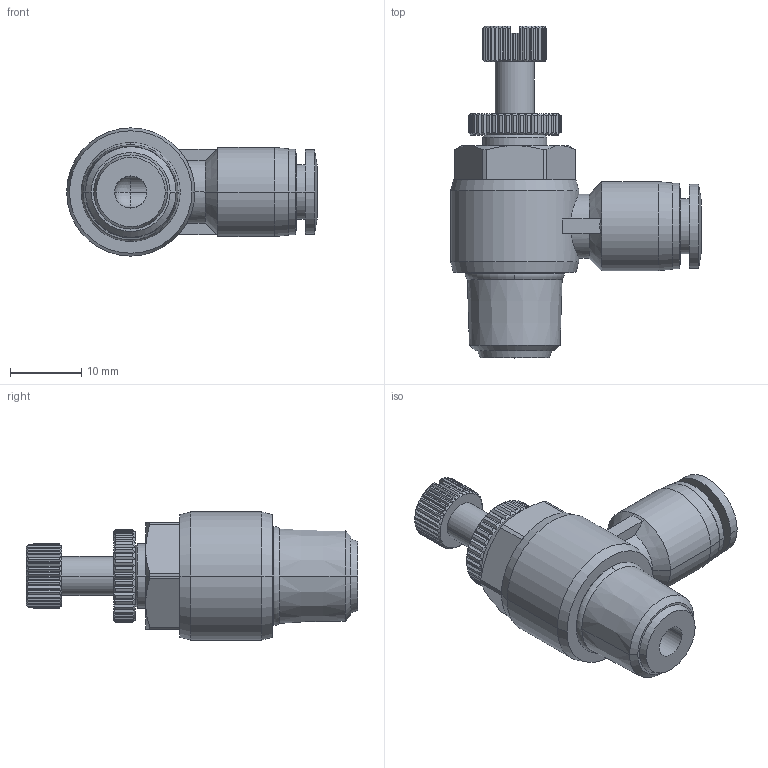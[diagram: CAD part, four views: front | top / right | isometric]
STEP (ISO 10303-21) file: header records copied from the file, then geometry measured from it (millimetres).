
FILE_DESCRIPTION (( 'STEP AP203' ), '1' );
FILE_NAME ('SCL06-02.STEP', '2020-05-12T15:34:48', ( '' ), ( '' ), 'SwSTEP 2.0', 'SolidWorks 2019', '' );
FILE_SCHEMA (( 'CONFIG_CONTROL_DESIGN' ));
Length unit declared in the file: millimetre
Products named in the file (1): SCL06-02
Bounding box: 35.2 x 46.6 x 18 mm (x, y, z)
Volume: 7593.7 mm3; surface area: 4130 mm2
Topology: 1 solids, 1 shells, 418 faces, 1026 edges, 620 vertices
Faces by surface type: plane 187, cone 114, cylinder 111, torus 4, sphere 2
Entity records: 12132 total; most frequent: CARTESIAN_POINT 3006, ORIENTED_EDGE 2044, DIRECTION 1872, EDGE_CURVE 1022, AXIS2_PLACEMENT_3D 771, VERTEX_POINT 618, EDGE_LOOP 432, FACE_OUTER_BOUND 418
